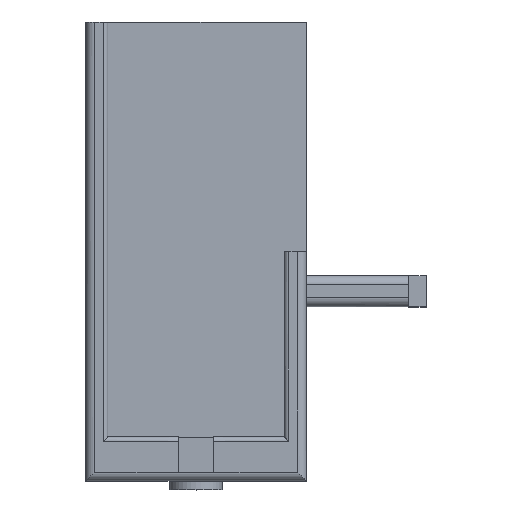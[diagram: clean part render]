
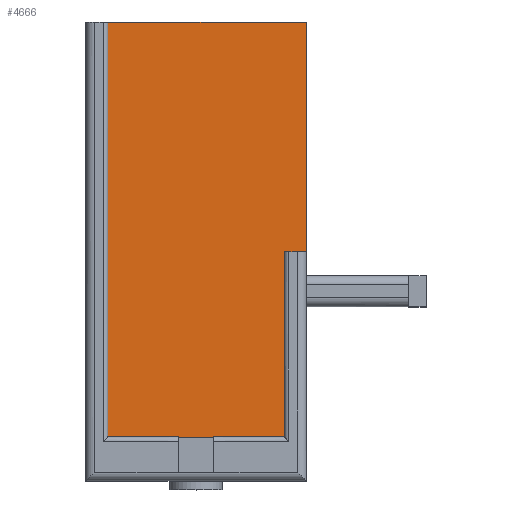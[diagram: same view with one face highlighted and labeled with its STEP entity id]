
A CAD part, top view. The second image highlights one B-rep face of the part: STEP entity #4666.
In plain terms, the highlighted planar face has unit normal (0, 0, 1).
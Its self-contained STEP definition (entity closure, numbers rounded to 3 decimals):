
#810 = PLANE('',#811);
#811 = AXIS2_PLACEMENT_3D('',#812,#813,#814);
#812 = CARTESIAN_POINT('',(0.,10.,0.));
#813 = DIRECTION('',(-0.,1.,0.));
#814 = DIRECTION('',(0.,0.,1.));
#1804 = PLANE('',#1805);
#1805 = AXIS2_PLACEMENT_3D('',#1806,#1807,#1808);
#1806 = CARTESIAN_POINT('',(-42.284,64.,27.71));
#1807 = DIRECTION('',(-1.,0.,0.));
#1808 = DIRECTION('',(0.,0.,1.));
#2576 = VERTEX_POINT('',#2577);
#2577 = CARTESIAN_POINT('',(3.716,10.,0.71));
#2591 = PLANE('',#2592);
#2592 = AXIS2_PLACEMENT_3D('',#2593,#2594,#2595);
#2593 = CARTESIAN_POINT('',(3.716,52.,27.71));
#2594 = DIRECTION('',(1.,-0.,0.));
#2595 = DIRECTION('',(0.,0.,-1.));
#2603 = EDGE_CURVE('',#2604,#2576,#2606,.T.);
#2604 = VERTEX_POINT('',#2605);
#2605 = CARTESIAN_POINT('',(-42.284,10.,0.71));
#2606 = SURFACE_CURVE('',#2607,(#2611,#2618),.PCURVE_S1.);
#2607 = LINE('',#2608,#2609);
#2608 = CARTESIAN_POINT('',(-44.284,10.,0.71));
#2609 = VECTOR('',#2610,1.);
#2610 = DIRECTION('',(1.,0.,0.));
#2611 = PCURVE('',#810,#2612);
#2612 = DEFINITIONAL_REPRESENTATION('',(#2613),#2617);
#2613 = LINE('',#2614,#2615);
#2614 = CARTESIAN_POINT('',(0.71,-44.284));
#2615 = VECTOR('',#2616,1.);
#2616 = DIRECTION('',(0.,1.));
#2617 = ( GEOMETRIC_REPRESENTATION_CONTEXT(2) 
PARAMETRIC_REPRESENTATION_CONTEXT() REPRESENTATION_CONTEXT('2D SPACE',''
  ) );
#2618 = PCURVE('',#2619,#2624);
#2619 = PLANE('',#2620);
#2620 = AXIS2_PLACEMENT_3D('',#2621,#2622,#2623);
#2621 = CARTESIAN_POINT('',(-44.284,64.,0.71));
#2622 = DIRECTION('',(0.,0.,-1.));
#2623 = DIRECTION('',(-1.,0.,-0.));
#2624 = DEFINITIONAL_REPRESENTATION('',(#2625),#2629);
#2625 = LINE('',#2626,#2627);
#2626 = CARTESIAN_POINT('',(-0.,-54.));
#2627 = VECTOR('',#2628,1.);
#2628 = DIRECTION('',(-1.,0.));
#2629 = ( GEOMETRIC_REPRESENTATION_CONTEXT(2) 
PARAMETRIC_REPRESENTATION_CONTEXT() REPRESENTATION_CONTEXT('2D SPACE',''
  ) );
#2766 = PLANE('',#2767);
#2767 = AXIS2_PLACEMENT_3D('',#2768,#2769,#2770);
#2768 = CARTESIAN_POINT('',(0.,52.,0.));
#2769 = DIRECTION('',(0.,1.,0.));
#2770 = DIRECTION('',(0.,-0.,1.));
#2914 = PLANE('',#2915);
#2915 = AXIS2_PLACEMENT_3D('',#2916,#2917,#2918);
#2916 = CARTESIAN_POINT('',(3.716,104.,0.71));
#2917 = DIRECTION('',(0.,1.,0.));
#2918 = DIRECTION('',(0.,-0.,1.));
#3610 = EDGE_CURVE('',#2604,#3611,#3613,.T.);
#3611 = VERTEX_POINT('',#3612);
#3612 = CARTESIAN_POINT('',(-42.284,104.,0.71));
#3613 = SURFACE_CURVE('',#3614,(#3618,#3625),.PCURVE_S1.);
#3614 = LINE('',#3615,#3616);
#3615 = CARTESIAN_POINT('',(-42.284,64.,0.71));
#3616 = VECTOR('',#3617,1.);
#3617 = DIRECTION('',(0.,1.,0.));
#3618 = PCURVE('',#1804,#3619);
#3619 = DEFINITIONAL_REPRESENTATION('',(#3620),#3624);
#3620 = LINE('',#3621,#3622);
#3621 = CARTESIAN_POINT('',(-27.,0.));
#3622 = VECTOR('',#3623,1.);
#3623 = DIRECTION('',(0.,1.));
#3624 = ( GEOMETRIC_REPRESENTATION_CONTEXT(2) 
PARAMETRIC_REPRESENTATION_CONTEXT() REPRESENTATION_CONTEXT('2D SPACE',''
  ) );
#3625 = PCURVE('',#2619,#3626);
#3626 = DEFINITIONAL_REPRESENTATION('',(#3627),#3631);
#3627 = LINE('',#3628,#3629);
#3628 = CARTESIAN_POINT('',(-2.,0.));
#3629 = VECTOR('',#3630,1.);
#3630 = DIRECTION('',(0.,1.));
#3631 = ( GEOMETRIC_REPRESENTATION_CONTEXT(2) 
PARAMETRIC_REPRESENTATION_CONTEXT() REPRESENTATION_CONTEXT('2D SPACE',''
  ) );
#4311 = CYLINDRICAL_SURFACE('',#4312,2.);
#4312 = AXIS2_PLACEMENT_3D('',#4313,#4314,#4315);
#4313 = CARTESIAN_POINT('',(3.716,64.,0.71));
#4314 = DIRECTION('',(0.,-1.,0.));
#4315 = DIRECTION('',(0.,0.,-1.));
#4622 = VERTEX_POINT('',#4623);
#4623 = CARTESIAN_POINT('',(3.716,52.,0.71));
#4644 = EDGE_CURVE('',#4622,#2576,#4645,.T.);
#4645 = SURFACE_CURVE('',#4646,(#4650,#4657),.PCURVE_S1.);
#4646 = LINE('',#4647,#4648);
#4647 = CARTESIAN_POINT('',(3.716,64.,0.71));
#4648 = VECTOR('',#4649,1.);
#4649 = DIRECTION('',(0.,-1.,0.));
#4650 = PCURVE('',#2591,#4651);
#4651 = DEFINITIONAL_REPRESENTATION('',(#4652),#4656);
#4652 = LINE('',#4653,#4654);
#4653 = CARTESIAN_POINT('',(27.,12.));
#4654 = VECTOR('',#4655,1.);
#4655 = DIRECTION('',(0.,-1.));
#4656 = ( GEOMETRIC_REPRESENTATION_CONTEXT(2) 
PARAMETRIC_REPRESENTATION_CONTEXT() REPRESENTATION_CONTEXT('2D SPACE',''
  ) );
#4657 = PCURVE('',#2619,#4658);
#4658 = DEFINITIONAL_REPRESENTATION('',(#4659),#4663);
#4659 = LINE('',#4660,#4661);
#4660 = CARTESIAN_POINT('',(-48.,0.));
#4661 = VECTOR('',#4662,1.);
#4662 = DIRECTION('',(-0.,-1.));
#4663 = ( GEOMETRIC_REPRESENTATION_CONTEXT(2) 
PARAMETRIC_REPRESENTATION_CONTEXT() REPRESENTATION_CONTEXT('2D SPACE',''
  ) );
#4666 = ADVANCED_FACE('',(#4667),#2619,.F.);
#4667 = FACE_BOUND('',#4668,.T.);
#4668 = EDGE_LOOP('',(#4669,#4670,#4693,#4716,#4737,#4738));
#4669 = ORIENTED_EDGE('',*,*,#4644,.F.);
#4670 = ORIENTED_EDGE('',*,*,#4671,.T.);
#4671 = EDGE_CURVE('',#4622,#4672,#4674,.T.);
#4672 = VERTEX_POINT('',#4673);
#4673 = CARTESIAN_POINT('',(5.716,52.,0.71));
#4674 = SURFACE_CURVE('',#4675,(#4679,#4686),.PCURVE_S1.);
#4675 = LINE('',#4676,#4677);
#4676 = CARTESIAN_POINT('',(-44.284,52.,0.71));
#4677 = VECTOR('',#4678,1.);
#4678 = DIRECTION('',(1.,-0.,0.));
#4679 = PCURVE('',#2619,#4680);
#4680 = DEFINITIONAL_REPRESENTATION('',(#4681),#4685);
#4681 = LINE('',#4682,#4683);
#4682 = CARTESIAN_POINT('',(-0.,-12.));
#4683 = VECTOR('',#4684,1.);
#4684 = DIRECTION('',(-1.,0.));
#4685 = ( GEOMETRIC_REPRESENTATION_CONTEXT(2) 
PARAMETRIC_REPRESENTATION_CONTEXT() REPRESENTATION_CONTEXT('2D SPACE',''
  ) );
#4686 = PCURVE('',#2766,#4687);
#4687 = DEFINITIONAL_REPRESENTATION('',(#4688),#4692);
#4688 = LINE('',#4689,#4690);
#4689 = CARTESIAN_POINT('',(0.71,-44.284));
#4690 = VECTOR('',#4691,1.);
#4691 = DIRECTION('',(0.,1.));
#4692 = ( GEOMETRIC_REPRESENTATION_CONTEXT(2) 
PARAMETRIC_REPRESENTATION_CONTEXT() REPRESENTATION_CONTEXT('2D SPACE',''
  ) );
#4693 = ORIENTED_EDGE('',*,*,#4694,.F.);
#4694 = EDGE_CURVE('',#4695,#4672,#4697,.T.);
#4695 = VERTEX_POINT('',#4696);
#4696 = CARTESIAN_POINT('',(5.716,104.,0.71));
#4697 = SURFACE_CURVE('',#4698,(#4702,#4709),.PCURVE_S1.);
#4698 = LINE('',#4699,#4700);
#4699 = CARTESIAN_POINT('',(5.716,64.,0.71));
#4700 = VECTOR('',#4701,1.);
#4701 = DIRECTION('',(-0.,-1.,-0.));
#4702 = PCURVE('',#2619,#4703);
#4703 = DEFINITIONAL_REPRESENTATION('',(#4704),#4708);
#4704 = LINE('',#4705,#4706);
#4705 = CARTESIAN_POINT('',(-50.,0.));
#4706 = VECTOR('',#4707,1.);
#4707 = DIRECTION('',(0.,-1.));
#4708 = ( GEOMETRIC_REPRESENTATION_CONTEXT(2) 
PARAMETRIC_REPRESENTATION_CONTEXT() REPRESENTATION_CONTEXT('2D SPACE',''
  ) );
#4709 = PCURVE('',#4311,#4710);
#4710 = DEFINITIONAL_REPRESENTATION('',(#4711),#4715);
#4711 = LINE('',#4712,#4713);
#4712 = CARTESIAN_POINT('',(1.571,0.));
#4713 = VECTOR('',#4714,1.);
#4714 = DIRECTION('',(0.,1.));
#4715 = ( GEOMETRIC_REPRESENTATION_CONTEXT(2) 
PARAMETRIC_REPRESENTATION_CONTEXT() REPRESENTATION_CONTEXT('2D SPACE',''
  ) );
#4716 = ORIENTED_EDGE('',*,*,#4717,.F.);
#4717 = EDGE_CURVE('',#3611,#4695,#4718,.T.);
#4718 = SURFACE_CURVE('',#4719,(#4723,#4730),.PCURVE_S1.);
#4719 = LINE('',#4720,#4721);
#4720 = CARTESIAN_POINT('',(5.716,104.,0.71));
#4721 = VECTOR('',#4722,1.);
#4722 = DIRECTION('',(1.,-0.,-0.));
#4723 = PCURVE('',#2619,#4724);
#4724 = DEFINITIONAL_REPRESENTATION('',(#4725),#4729);
#4725 = LINE('',#4726,#4727);
#4726 = CARTESIAN_POINT('',(-50.,40.));
#4727 = VECTOR('',#4728,1.);
#4728 = DIRECTION('',(-1.,0.));
#4729 = ( GEOMETRIC_REPRESENTATION_CONTEXT(2) 
PARAMETRIC_REPRESENTATION_CONTEXT() REPRESENTATION_CONTEXT('2D SPACE',''
  ) );
#4730 = PCURVE('',#2914,#4731);
#4731 = DEFINITIONAL_REPRESENTATION('',(#4732),#4736);
#4732 = LINE('',#4733,#4734);
#4733 = CARTESIAN_POINT('',(0.,2.));
#4734 = VECTOR('',#4735,1.);
#4735 = DIRECTION('',(0.,1.));
#4736 = ( GEOMETRIC_REPRESENTATION_CONTEXT(2) 
PARAMETRIC_REPRESENTATION_CONTEXT() REPRESENTATION_CONTEXT('2D SPACE',''
  ) );
#4737 = ORIENTED_EDGE('',*,*,#3610,.F.);
#4738 = ORIENTED_EDGE('',*,*,#2603,.T.);
